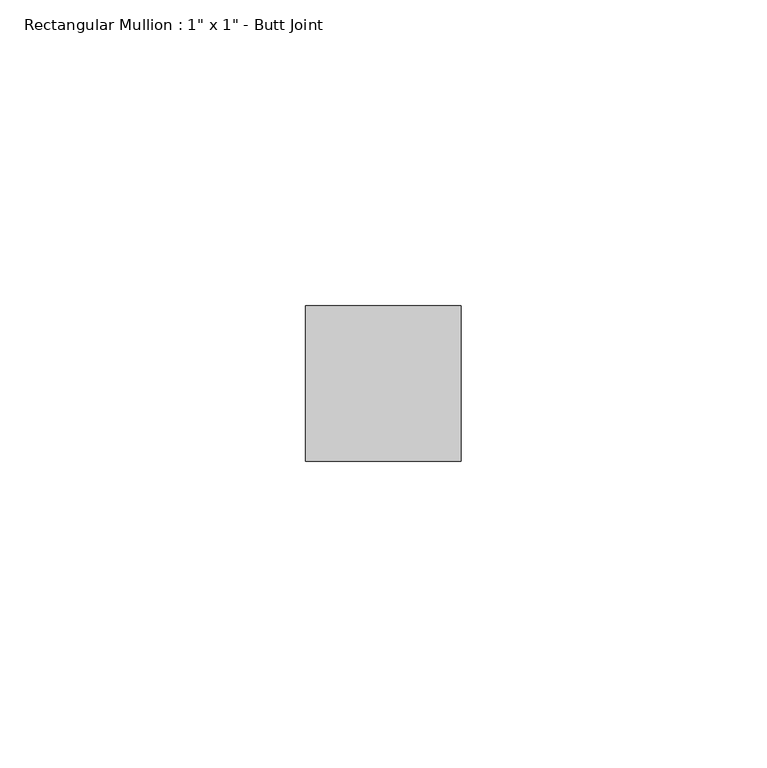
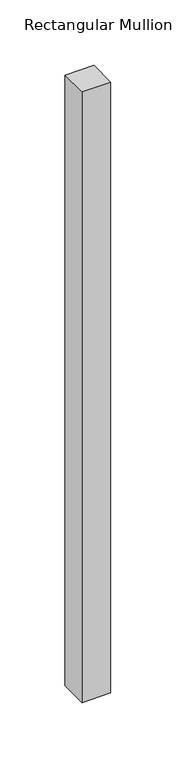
"""IFC4 building model written with IfcOpenShell, lengths in millimetres: member geometry."""

from ifc_helpers import new_model, si_unit, frame, origin, place, context, project, spatial, polyline, outline, extrude, source, transform, mapped, element, save


def member_222a6065(model_context):
    return source(origin(), model_context, "Body", "SweptSolid", [
        extrude(outline(polyline([(12.7, 12.7), (12.7, -12.7), (-12.7, -12.7), (-12.7, 12.7), (12.7, 12.7)])), frame((0.0, 0.0, -569.3956956), z_axis=(0.0, 0.0, 1.0), x_axis=(1.0, 0.0, 0.0)), (0.0, 0.0, 1.0), 569.3956956),
    ])


if __name__ == "__main__":
    model = new_model("IFC4")
    model_context = context("Model", 3, world=origin())
    ifc_project = project(units=[si_unit("LENGTHUNIT", "METRE", prefix="MILLI")], contexts=[model_context])
    site = spatial("IfcSite", under=ifc_project)
    building = spatial("IfcBuilding", under=site)
    placement = place(None, origin())
    member_shape = member_222a6065(model_context)
    element("IfcMember", 1, ObjectType="Rectangular Mullion : 1\" x 1\" - Butt Joint", at=placement, inside=building, context=model_context, shape_type="MappedRepresentation", body=[
        mapped(member_shape, transform((0.0, 0.0, 0.0), x_axis=(1.0, 0.0, 0.0), y_axis=(0.0, 1.0, 0.0), z_axis=(0.0, 0.0, 1.0))),
    ])
    save(model, "model.ifc")
